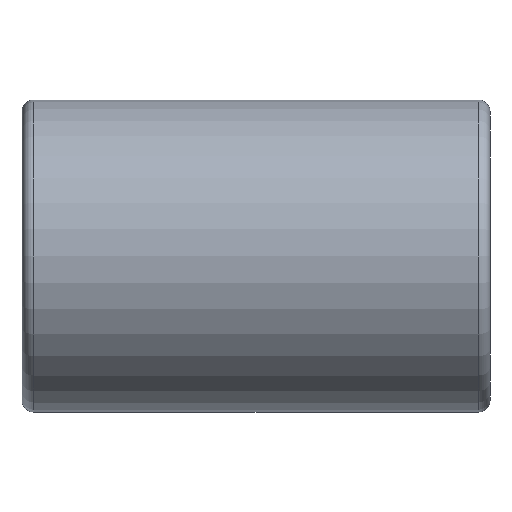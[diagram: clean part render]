
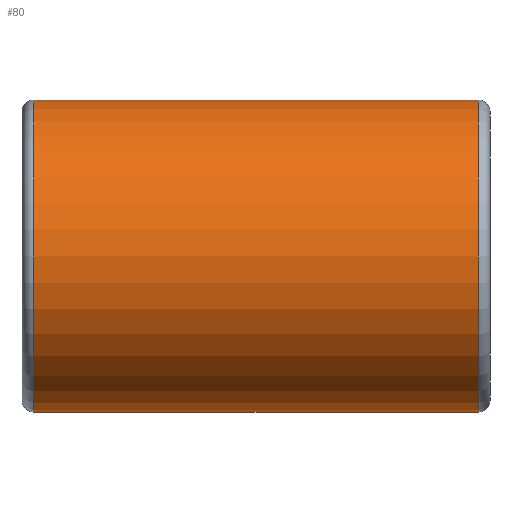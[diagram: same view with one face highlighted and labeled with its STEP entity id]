
A CAD part, front view. The second image highlights one B-rep face of the part: STEP entity #80.
In plain terms, the highlighted cylindrical face has radius 4 mm (diameter 8 mm), a full revolution.
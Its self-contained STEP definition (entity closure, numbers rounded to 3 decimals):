
#80=ADVANCED_FACE('',(#97,#98),#99,.T.);
#97=FACE_OUTER_BOUND('',#115,.T.);
#98=FACE_OUTER_BOUND('',#116,.T.);
#99=CYLINDRICAL_SURFACE('',#117,4.0);
#115=EDGE_LOOP('',(#143));
#116=EDGE_LOOP('',(#144));
#117=AXIS2_PLACEMENT_3D('',#145,#146,#147);
#143=ORIENTED_EDGE('',*,*,#151,.F.);
#144=ORIENTED_EDGE('',*,*,#153,.T.);
#145=CARTESIAN_POINT('',(0.,0.0,0.0));
#146=DIRECTION('',(1.0,-0.0,-0.0));
#147=DIRECTION('',(0.0,1.0,0.0));
#151=EDGE_CURVE('',#160,#160,#161,.T.);
#153=EDGE_CURVE('',#164,#164,#165,.T.);
#160=VERTEX_POINT('',#172);
#161=CIRCLE('',#173,4.0);
#164=VERTEX_POINT('',#176);
#165=CIRCLE('',#177,4.0);
#172=CARTESIAN_POINT('',(5.7,4.0,0.0));
#173=AXIS2_PLACEMENT_3D('',#187,#188,#189);
#176=CARTESIAN_POINT('',(-5.7,4.0,0.0));
#177=AXIS2_PLACEMENT_3D('',#193,#194,#195);
#187=CARTESIAN_POINT('',(5.7,0.0,0.0));
#188=DIRECTION('',(1.0,0.0,0.0));
#189=DIRECTION('',(0.0,1.0,0.0));
#193=CARTESIAN_POINT('',(-5.7,0.0,0.0));
#194=DIRECTION('',(1.0,0.0,0.0));
#195=DIRECTION('',(0.0,1.0,0.0));
